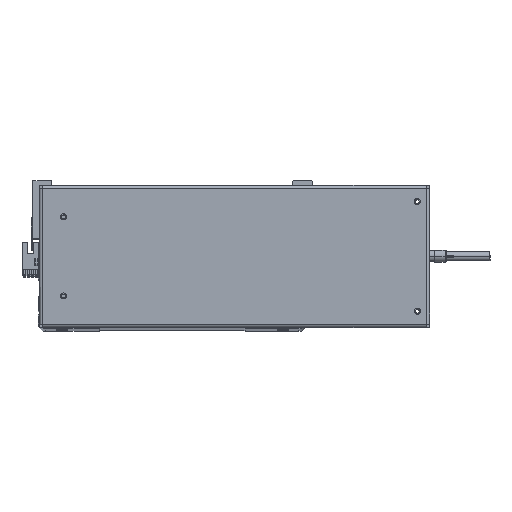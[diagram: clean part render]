
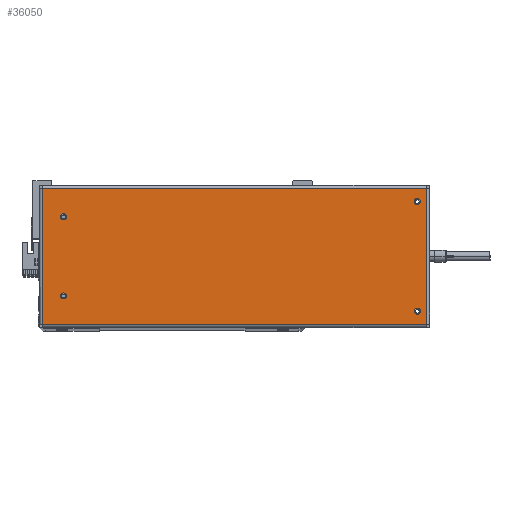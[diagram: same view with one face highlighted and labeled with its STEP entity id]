
A CAD part, top view. The second image highlights one B-rep face of the part: STEP entity #36050.
In plain terms, the highlighted planar face has unit normal (0, 0, 1).
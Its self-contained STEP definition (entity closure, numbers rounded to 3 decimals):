
#227 = EDGE_CURVE ( 'NONE', #789, #15296, #1407, .T. ) ;
#789 = VERTEX_POINT ( 'NONE', #38383 ) ;
#1341 = VERTEX_POINT ( 'NONE', #14425 ) ;
#1407 = CIRCLE ( 'NONE', #5132, 2.5 ) ;
#1431 = EDGE_LOOP ( 'NONE', ( #8739, #8221 ) ) ;
#1846 = AXIS2_PLACEMENT_3D ( 'NONE', #13544, #10495, #38400 ) ;
#1880 = VECTOR ( 'NONE', #14141, 1000. ) ;
#2118 = VERTEX_POINT ( 'NONE', #19921 ) ;
#2772 = DIRECTION ( 'NONE',  ( 1., 0., 0. ) ) ;
#2802 = DIRECTION ( 'NONE',  ( 1., 0., 0. ) ) ;
#3362 = EDGE_CURVE ( 'NONE', #15296, #789, #32898, .T. ) ;
#3410 = EDGE_CURVE ( 'NONE', #29647, #21886, #9340, .T. ) ;
#5105 = VERTEX_POINT ( 'NONE', #22159 ) ;
#5132 = AXIS2_PLACEMENT_3D ( 'NONE', #21917, #10488, #22194 ) ;
#5346 = DIRECTION ( 'NONE',  ( 0., -1., 0. ) ) ;
#5366 = CIRCLE ( 'NONE', #23429, 2.5 ) ;
#5420 = DIRECTION ( 'NONE',  ( 0., 1., 0. ) ) ;
#5491 = CARTESIAN_POINT ( 'NONE',  ( 150.5, -45., 0. ) ) ;
#5979 = EDGE_LOOP ( 'NONE', ( #38726, #28708 ) ) ;
#6006 = EDGE_CURVE ( 'NONE', #23093, #2118, #7941, .T. ) ;
#6886 = FACE_BOUND ( 'NONE', #35048, .T. ) ;
#7519 = DIRECTION ( 'NONE',  ( 0., 0., -1. ) ) ;
#7941 = CIRCLE ( 'NONE', #1846, 2.5 ) ;
#8002 = CARTESIAN_POINT ( 'NONE',  ( 157.6, -55.6, 0. ) ) ;
#8221 = ORIENTED_EDGE ( 'NONE', *, *, #30121, .F. ) ;
#8421 = AXIS2_PLACEMENT_3D ( 'NONE', #19991, #7519, #30380 ) ;
#8739 = ORIENTED_EDGE ( 'NONE', *, *, #26909, .F. ) ;
#9131 = DIRECTION ( 'NONE',  ( -1., 0., 0. ) ) ;
#9340 = LINE ( 'NONE', #12146, #26995 ) ;
#9835 = DIRECTION ( 'NONE',  ( 0., 0., 1. ) ) ;
#10488 = DIRECTION ( 'NONE',  ( 0., 0., 1. ) ) ;
#10495 = DIRECTION ( 'NONE',  ( 0., 0., 1. ) ) ;
#11214 = EDGE_CURVE ( 'NONE', #1341, #5105, #5366, .T. ) ;
#11293 = VERTEX_POINT ( 'NONE', #8002 ) ;
#11637 = CARTESIAN_POINT ( 'NONE',  ( 150.5, -45., 0. ) ) ;
#12146 = CARTESIAN_POINT ( 'NONE',  ( 157.7, 55.6, 0. ) ) ;
#12468 = EDGE_CURVE ( 'NONE', #5105, #1341, #37211, .T. ) ;
#12803 = CARTESIAN_POINT ( 'NONE',  ( -138., 32.5, 0. ) ) ;
#13075 = CARTESIAN_POINT ( 'NONE',  ( 148., 45., 0. ) ) ;
#13087 = CARTESIAN_POINT ( 'NONE',  ( -157.6, -55.6, 0. ) ) ;
#13544 = CARTESIAN_POINT ( 'NONE',  ( -140.5, 32.5, 0. ) ) ;
#13755 = CARTESIAN_POINT ( 'NONE',  ( -157.7, -55.6, 0. ) ) ;
#13758 = VECTOR ( 'NONE', #5420, 1000. ) ;
#14141 = DIRECTION ( 'NONE',  ( 1., 0., 0. ) ) ;
#14296 = LINE ( 'NONE', #39408, #30505 ) ;
#14425 = CARTESIAN_POINT ( 'NONE',  ( -138., -32.5, 0. ) ) ;
#14528 = EDGE_LOOP ( 'NONE', ( #22152, #24961, #36964, #36946 ) ) ;
#14841 = AXIS2_PLACEMENT_3D ( 'NONE', #16031, #9835, #19340 ) ;
#15011 = CARTESIAN_POINT ( 'NONE',  ( -157.6, 55.6, 0. ) ) ;
#15296 = VERTEX_POINT ( 'NONE', #13075 ) ;
#16031 = CARTESIAN_POINT ( 'NONE',  ( -140.5, -32.5, 0. ) ) ;
#17034 = DIRECTION ( 'NONE',  ( 0., 0., 1. ) ) ;
#18322 = CARTESIAN_POINT ( 'NONE',  ( 157.6, -55.6, 0. ) ) ;
#18724 = LINE ( 'NONE', #18322, #13758 ) ;
#19340 = DIRECTION ( 'NONE',  ( 1., 0., 0. ) ) ;
#19879 = ORIENTED_EDGE ( 'NONE', *, *, #12468, .F. ) ;
#19921 = CARTESIAN_POINT ( 'NONE',  ( -143., 32.5, 0. ) ) ;
#19934 = VERTEX_POINT ( 'NONE', #13087 ) ;
#19991 = CARTESIAN_POINT ( 'NONE',  ( 157.7, 58.5, 0. ) ) ;
#20124 = EDGE_CURVE ( 'NONE', #21886, #19934, #14296, .T. ) ;
#20246 = AXIS2_PLACEMENT_3D ( 'NONE', #21626, #37124, #2772 ) ;
#21148 = EDGE_CURVE ( 'NONE', #19934, #11293, #25518, .T. ) ;
#21626 = CARTESIAN_POINT ( 'NONE',  ( 150.5, 45., 0. ) ) ;
#21886 = VERTEX_POINT ( 'NONE', #15011 ) ;
#21917 = CARTESIAN_POINT ( 'NONE',  ( 150.5, 45., 0. ) ) ;
#22134 = FACE_BOUND ( 'NONE', #38396, .T. ) ;
#22152 = ORIENTED_EDGE ( 'NONE', *, *, #20124, .T. ) ;
#22159 = CARTESIAN_POINT ( 'NONE',  ( -143., -32.5, 0. ) ) ;
#22194 = DIRECTION ( 'NONE',  ( 1., 0., 0. ) ) ;
#22231 = CARTESIAN_POINT ( 'NONE',  ( 148., -45., 0. ) ) ;
#23093 = VERTEX_POINT ( 'NONE', #12803 ) ;
#23429 = AXIS2_PLACEMENT_3D ( 'NONE', #26636, #17034, #36117 ) ;
#23830 = PLANE ( 'NONE',  #8421 ) ;
#24693 = DIRECTION ( 'NONE',  ( 1., 0., 0. ) ) ;
#24961 = ORIENTED_EDGE ( 'NONE', *, *, #21148, .T. ) ;
#25135 = EDGE_CURVE ( 'NONE', #2118, #23093, #30645, .T. ) ;
#25518 = LINE ( 'NONE', #13755, #1880 ) ;
#26028 = CARTESIAN_POINT ( 'NONE',  ( 157.6, 55.6, 0. ) ) ;
#26429 = EDGE_CURVE ( 'NONE', #11293, #29647, #18724, .T. ) ;
#26636 = CARTESIAN_POINT ( 'NONE',  ( -140.5, -32.5, 0. ) ) ;
#26909 = EDGE_CURVE ( 'NONE', #33767, #37538, #40546, .T. ) ;
#26995 = VECTOR ( 'NONE', #9131, 1000. ) ;
#27323 = AXIS2_PLACEMENT_3D ( 'NONE', #11637, #27534, #2802 ) ;
#27534 = DIRECTION ( 'NONE',  ( 0., 0., 1. ) ) ;
#28012 = CIRCLE ( 'NONE', #30324, 2.5 ) ;
#28708 = ORIENTED_EDGE ( 'NONE', *, *, #25135, .F. ) ;
#29223 = DIRECTION ( 'NONE',  ( 0., 0., 1. ) ) ;
#29451 = FACE_BOUND ( 'NONE', #1431, .T. ) ;
#29647 = VERTEX_POINT ( 'NONE', #26028 ) ;
#30121 = EDGE_CURVE ( 'NONE', #37538, #33767, #28012, .T. ) ;
#30324 = AXIS2_PLACEMENT_3D ( 'NONE', #5491, #33733, #24693 ) ;
#30380 = DIRECTION ( 'NONE',  ( -1., 0., 0. ) ) ;
#30505 = VECTOR ( 'NONE', #5346, 1000. ) ;
#30645 = CIRCLE ( 'NONE', #30703, 2.5 ) ;
#30703 = AXIS2_PLACEMENT_3D ( 'NONE', #38046, #29223, #38316 ) ;
#32898 = CIRCLE ( 'NONE', #20246, 2.5 ) ;
#33733 = DIRECTION ( 'NONE',  ( 0., 0., 1. ) ) ;
#33767 = VERTEX_POINT ( 'NONE', #37548 ) ;
#34875 = ORIENTED_EDGE ( 'NONE', *, *, #3362, .F. ) ;
#34942 = ORIENTED_EDGE ( 'NONE', *, *, #11214, .F. ) ;
#35048 = EDGE_LOOP ( 'NONE', ( #38960, #34875 ) ) ;
#35370 = FACE_OUTER_BOUND ( 'NONE', #14528, .T. ) ;
#36050 = ADVANCED_FACE ( 'NONE', ( #22134, #36841, #29451, #6886, #35370 ), #23830, .F. ) ;
#36117 = DIRECTION ( 'NONE',  ( 1., 0., 0. ) ) ;
#36841 = FACE_BOUND ( 'NONE', #5979, .T. ) ;
#36946 = ORIENTED_EDGE ( 'NONE', *, *, #3410, .T. ) ;
#36964 = ORIENTED_EDGE ( 'NONE', *, *, #26429, .T. ) ;
#37124 = DIRECTION ( 'NONE',  ( 0., 0., 1. ) ) ;
#37211 = CIRCLE ( 'NONE', #14841, 2.5 ) ;
#37538 = VERTEX_POINT ( 'NONE', #22231 ) ;
#37548 = CARTESIAN_POINT ( 'NONE',  ( 153., -45., 0. ) ) ;
#38046 = CARTESIAN_POINT ( 'NONE',  ( -140.5, 32.5, 0. ) ) ;
#38316 = DIRECTION ( 'NONE',  ( 1., 0., 0. ) ) ;
#38383 = CARTESIAN_POINT ( 'NONE',  ( 153., 45., 0. ) ) ;
#38396 = EDGE_LOOP ( 'NONE', ( #34942, #19879 ) ) ;
#38400 = DIRECTION ( 'NONE',  ( 1., 0., 0. ) ) ;
#38726 = ORIENTED_EDGE ( 'NONE', *, *, #6006, .F. ) ;
#38960 = ORIENTED_EDGE ( 'NONE', *, *, #227, .F. ) ;
#39408 = CARTESIAN_POINT ( 'NONE',  ( -157.6, 55.6, 0. ) ) ;
#40546 = CIRCLE ( 'NONE', #27323, 2.5 ) ;
